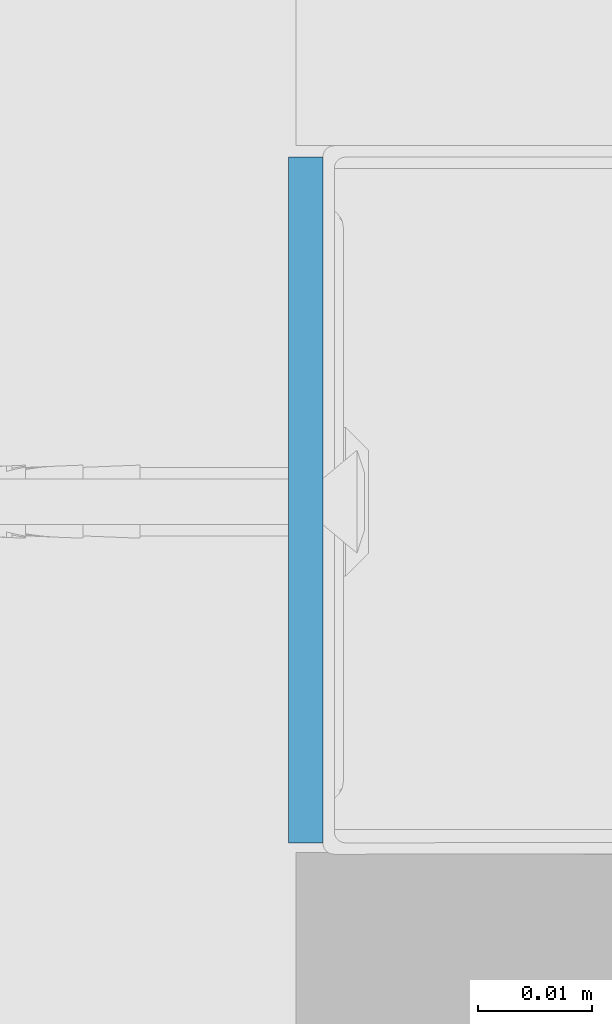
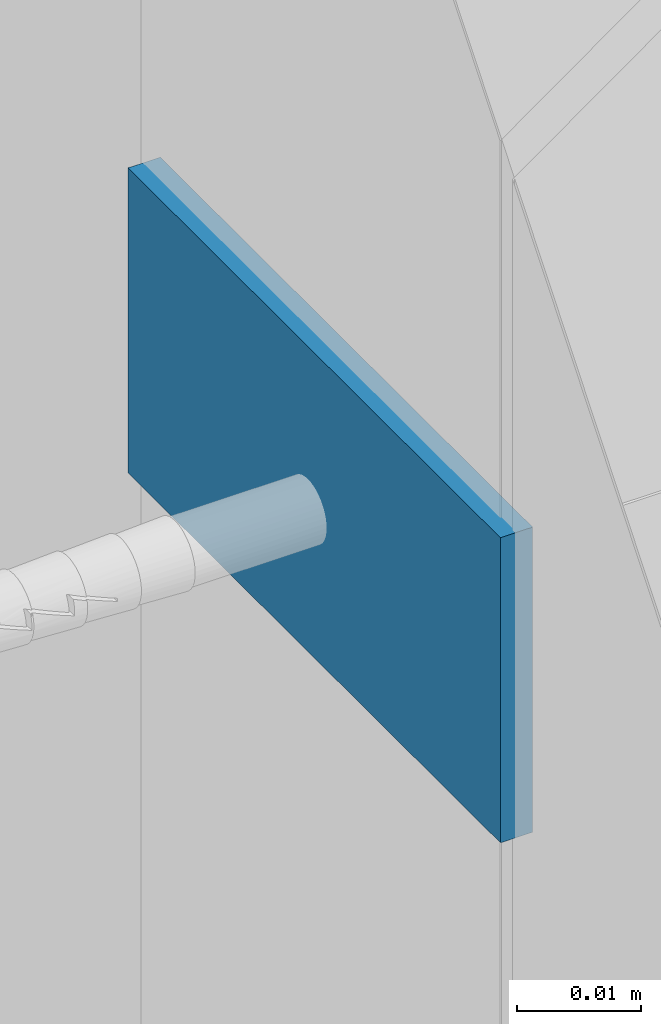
# One storey, part 28 of 62: 1 wall.
"""IFC2X3 building model written with IfcOpenShell, lengths in millimetres."""

from ifc_helpers import new_model, si_unit, frame, origin_with_axes, place, context, subcontext, project, spatial, faceted_brep, material, type_object, element, save


model = new_model("IFC2X3")

# Units and contexts
model_context = context("Model", 3, world=origin_with_axes())
body_context = subcontext(model_context, "Body", "Model", "MODEL_VIEW")
ifc_project = project(units=[si_unit("LENGTHUNIT", "METRE", prefix="MILLI"), si_unit("AREAUNIT", "SQUARE_METRE"), si_unit("VOLUMEUNIT", "CUBIC_METRE")], contexts=[model_context])

# Site, building, storey
site_placement = place(None, frame((2152.14102611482, -2015.0250894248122, 57.61556563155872), z_axis=(0.0, 0.0, 1.0), x_axis=(-1.1102230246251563e-16, 1.0, 0.0)))
site = spatial("IfcSite", under=ifc_project, at=site_placement, Name="Default Site", CompositionType="ELEMENT")
building_placement = place(site_placement, origin_with_axes())
building = spatial("IfcBuilding", under=site, at=building_placement, Name="Default Building", CompositionType="ELEMENT")
storey_placement = place(building_placement, origin_with_axes())
storey = spatial("IfcBuildingStorey", under=building, at=storey_placement, Name="Default Building Storey", CompositionType="ELEMENT", Elevation=57.61556563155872)

# Wall
ifc_material = material(Name="Default")
wall_type = type_object("IfcWallType", Name="Taśma uszczelniająca piankowa RIGIPS szer.30mm#9", PredefinedType="NOTDEFINED")
wall_placement = place(storey_placement, frame((2208.0370864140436, 2019.7786110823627, 2211.8872629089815), z_axis=(0.0, 0.0, 1.0), x_axis=(1.0, 0.0, 0.0)))
element("IfcWall", 1, at=wall_placement, inside=storey, type_object=wall_type, material=ifc_material, Name="Taśma uszczelniająca piankowa RIGIPS szer.30mm", context=body_context, shape_type="Brep", body=[
    faceted_brep([(59.99999865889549, 0.0, 4.511946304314e-12), (0.0, 0.0, 0.0), (1.0828671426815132e-12, -2.2379254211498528e-11, -29.999999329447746), (59.99999865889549, -2.2379254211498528e-11, -29.999999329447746), (0.0, 3.000000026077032, 0.0), (1.0828671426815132e-12, 3.000000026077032, -29.999999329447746), (59.99999865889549, 3.000000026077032, 0.0), (59.99999865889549, 3.000000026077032, -29.999999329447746)], [[[0, 1, 2, 3]], [[1, 4, 5, 2]], [[4, 6, 7, 5]], [[6, 0, 3, 7]], [[7, 3, 2, 5]], [[0, 6, 4, 1]]]),
])

save(model, "model.ifc")
